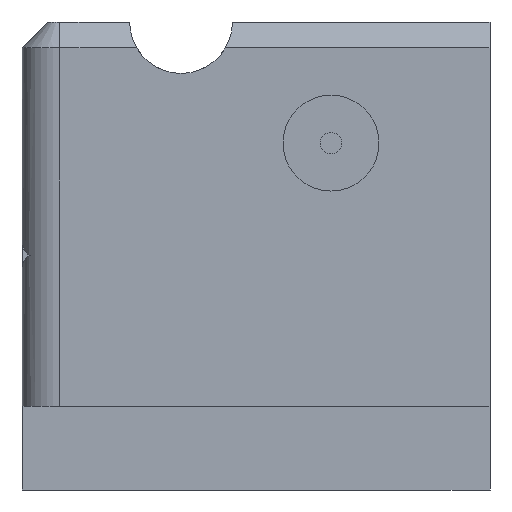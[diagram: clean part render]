
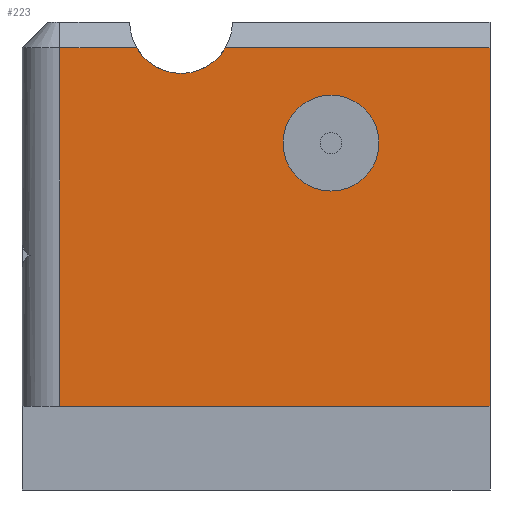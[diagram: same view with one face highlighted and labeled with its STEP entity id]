
A CAD part, front view. The second image highlights one B-rep face of the part: STEP entity #223.
In plain terms, the highlighted planar face has unit normal (0, -1, 0).
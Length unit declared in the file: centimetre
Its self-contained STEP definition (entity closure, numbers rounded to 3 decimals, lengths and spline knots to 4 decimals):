
#24 = EDGE_CURVE ( 'NONE', #381, #842, #374, .T. ) ;
#25 = LINE ( 'NONE', #34, #979 ) ;
#26 = VERTEX_POINT ( 'NONE', #648 ) ;
#33 = ORIENTED_EDGE ( 'NONE', *, *, #110, .T. ) ;
#34 = CARTESIAN_POINT ( 'NONE',  ( 80.722, 0., 944.5401 ) ) ;
#35 = ORIENTED_EDGE ( 'NONE', *, *, #24, .F. ) ;
#71 = CARTESIAN_POINT ( 'NONE',  ( 80.722, 0., 944.5401 ) ) ;
#79 = DIRECTION ( 'NONE',  ( 1., 0., 0. ) ) ;
#99 = EDGE_CURVE ( 'NONE', #842, #381, #960, .T. ) ;
#110 = EDGE_CURVE ( 'NONE', #849, #220, #151, .T. ) ;
#134 = VECTOR ( 'NONE', #786, 100. ) ;
#146 = EDGE_CURVE ( 'NONE', #26, #849, #25, .T. ) ;
#151 = CIRCLE ( 'NONE', #356, 109.9022 ) ;
#159 = CARTESIAN_POINT ( 'NONE',  ( 0., 0., 179.324 ) ) ;
#168 = DIRECTION ( 'NONE',  ( 0., 0., -1. ) ) ;
#220 = VERTEX_POINT ( 'NONE', #930 ) ;
#223 = ADVANCED_FACE ( 'NONE', ( #683, #449 ), #1015, .F. ) ;
#231 = VERTEX_POINT ( 'NONE', #523 ) ;
#240 = LINE ( 'NONE', #733, #376 ) ;
#265 = DIRECTION ( 'NONE',  ( 0., 0., -1. ) ) ;
#267 = EDGE_LOOP ( 'NONE', ( #789, #35 ) ) ;
#285 = ORIENTED_EDGE ( 'NONE', *, *, #637, .T. ) ;
#326 = CARTESIAN_POINT ( 'NONE',  ( 660.2545, 0., 741.2307 ) ) ;
#356 = AXIS2_PLACEMENT_3D ( 'NONE', #889, #804, #399 ) ;
#374 = CIRCLE ( 'NONE', #607, 102.5019 ) ;
#376 = VECTOR ( 'NONE', #426, 100. ) ;
#381 = VERTEX_POINT ( 'NONE', #1037 ) ;
#387 = CARTESIAN_POINT ( 'NONE',  ( 660.2545, 0., 638.7288 ) ) ;
#392 = EDGE_CURVE ( 'NONE', #531, #584, #944, .T. ) ;
#396 = LINE ( 'NONE', #159, #661 ) ;
#399 = DIRECTION ( 'NONE',  ( 0., 0., 1. ) ) ;
#403 = AXIS2_PLACEMENT_3D ( 'NONE', #497, #657, #168 ) ;
#426 = DIRECTION ( 'NONE',  ( -1., 0., 0. ) ) ;
#449 = FACE_OUTER_BOUND ( 'NONE', #515, .T. ) ;
#459 = CARTESIAN_POINT ( 'NONE',  ( 80.722, 0., 1000. ) ) ;
#497 = CARTESIAN_POINT ( 'NONE',  ( 660.2545, 0., 741.2307 ) ) ;
#515 = EDGE_LOOP ( 'NONE', ( #846, #33, #285, #544, #856, #947 ) ) ;
#523 = CARTESIAN_POINT ( 'NONE',  ( 1000., 0., 179.324 ) ) ;
#527 = CARTESIAN_POINT ( 'NONE',  ( 1000., 0., 1000. ) ) ;
#531 = VERTEX_POINT ( 'NONE', #71 ) ;
#544 = ORIENTED_EDGE ( 'NONE', *, *, #392, .T. ) ;
#572 = DIRECTION ( 'NONE',  ( 0., -1., 0. ) ) ;
#584 = VERTEX_POINT ( 'NONE', #986 ) ;
#600 = CARTESIAN_POINT ( 'NONE',  ( 0., 0., 1000. ) ) ;
#607 = AXIS2_PLACEMENT_3D ( 'NONE', #326, #572, #265 ) ;
#637 = EDGE_CURVE ( 'NONE', #220, #531, #240, .T. ) ;
#648 = CARTESIAN_POINT ( 'NONE',  ( 1000., 0., 944.5401 ) ) ;
#657 = DIRECTION ( 'NONE',  ( 0., -1., 0. ) ) ;
#661 = VECTOR ( 'NONE', #79, 100. ) ;
#671 = DIRECTION ( 'NONE',  ( -1., 0., 0. ) ) ;
#683 = FACE_BOUND ( 'NONE', #267, .T. ) ;
#686 = DIRECTION ( 'NONE',  ( 0., 0., -1. ) ) ;
#733 = CARTESIAN_POINT ( 'NONE',  ( 80.722, 0., 944.5401 ) ) ;
#766 = LINE ( 'NONE', #527, #1029 ) ;
#784 = EDGE_CURVE ( 'NONE', #584, #231, #396, .T. ) ;
#786 = DIRECTION ( 'NONE',  ( 0., 0., -1. ) ) ;
#789 = ORIENTED_EDGE ( 'NONE', *, *, #99, .F. ) ;
#796 = CARTESIAN_POINT ( 'NONE',  ( 434.7249, 0., 944.5401 ) ) ;
#804 = DIRECTION ( 'NONE',  ( 0., 1., 0. ) ) ;
#833 = DIRECTION ( 'NONE',  ( 0., 0., 1. ) ) ;
#842 = VERTEX_POINT ( 'NONE', #387 ) ;
#843 = AXIS2_PLACEMENT_3D ( 'NONE', #600, #923, #833 ) ;
#846 = ORIENTED_EDGE ( 'NONE', *, *, #146, .T. ) ;
#849 = VERTEX_POINT ( 'NONE', #796 ) ;
#856 = ORIENTED_EDGE ( 'NONE', *, *, #784, .T. ) ;
#889 = CARTESIAN_POINT ( 'NONE',  ( 339.8424, 0., 1000. ) ) ;
#923 = DIRECTION ( 'NONE',  ( 0., 1., 0. ) ) ;
#930 = CARTESIAN_POINT ( 'NONE',  ( 244.96, 0., 944.5401 ) ) ;
#944 = LINE ( 'NONE', #459, #134 ) ;
#947 = ORIENTED_EDGE ( 'NONE', *, *, #1025, .F. ) ;
#960 = CIRCLE ( 'NONE', #403, 102.5019 ) ;
#979 = VECTOR ( 'NONE', #671, 100. ) ;
#986 = CARTESIAN_POINT ( 'NONE',  ( 80.722, 0., 179.324 ) ) ;
#1015 = PLANE ( 'NONE',  #843 ) ;
#1025 = EDGE_CURVE ( 'NONE', #26, #231, #766, .T. ) ;
#1029 = VECTOR ( 'NONE', #686, 100. ) ;
#1037 = CARTESIAN_POINT ( 'NONE',  ( 660.2545, 0., 843.7326 ) ) ;
